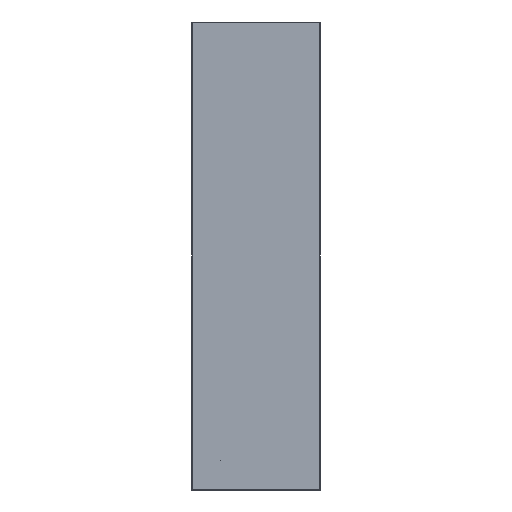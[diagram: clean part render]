
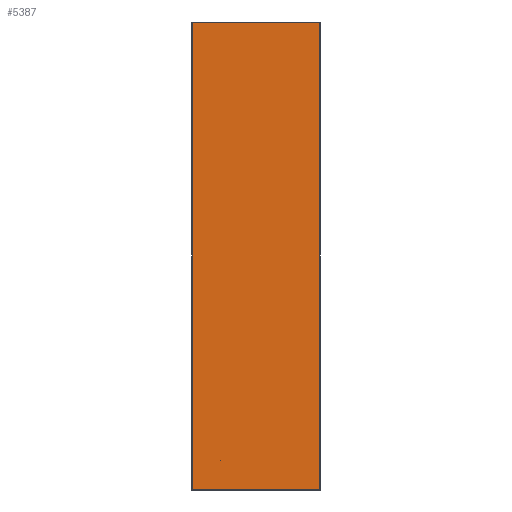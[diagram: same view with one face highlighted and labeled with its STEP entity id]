
A CAD part, front view. The second image highlights one B-rep face of the part: STEP entity #5387.
In plain terms, the highlighted planar face has unit normal (0, -1, 0).
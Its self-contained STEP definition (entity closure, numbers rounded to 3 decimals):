
#59 = EDGE_LOOP ( 'NONE', ( #2926, #4702 ) ) ;
#180 = VERTEX_POINT ( 'NONE', #3302 ) ;
#186 = ORIENTED_EDGE ( 'NONE', *, *, #2990, .T. ) ;
#253 = LINE ( 'NONE', #4280, #470 ) ;
#267 = VERTEX_POINT ( 'NONE', #404 ) ;
#295 = CARTESIAN_POINT ( 'NONE',  ( -217.9, -15., 797. ) ) ;
#373 = DIRECTION ( 'NONE',  ( 0., 0., 1. ) ) ;
#404 = CARTESIAN_POINT ( 'NONE',  ( 217.9, -15., -797. ) ) ;
#470 = VECTOR ( 'NONE', #4761, 1000. ) ;
#543 = CIRCLE ( 'NONE', #5489, 0.5 ) ;
#573 = CARTESIAN_POINT ( 'NONE',  ( -217.9, -15., 797. ) ) ;
#639 = FACE_BOUND ( 'NONE', #59, .T. ) ;
#781 = ORIENTED_EDGE ( 'NONE', *, *, #5078, .T. ) ;
#1040 = DIRECTION ( 'NONE',  ( -1., 0., 0. ) ) ;
#1041 = VECTOR ( 'NONE', #1040, 1000. ) ;
#1593 = VERTEX_POINT ( 'NONE', #3430 ) ;
#1643 = LINE ( 'NONE', #5069, #1787 ) ;
#1787 = VECTOR ( 'NONE', #5198, 1000. ) ;
#1888 = EDGE_CURVE ( 'NONE', #4983, #267, #1643, .T. ) ;
#2156 = EDGE_CURVE ( 'NONE', #3812, #4983, #253, .T. ) ;
#2174 = FACE_OUTER_BOUND ( 'NONE', #3600, .T. ) ;
#2303 = EDGE_CURVE ( 'NONE', #2577, #180, #543, .T. ) ;
#2574 = PLANE ( 'NONE',  #3071 ) ;
#2577 = VERTEX_POINT ( 'NONE', #3373 ) ;
#2676 = AXIS2_PLACEMENT_3D ( 'NONE', #5730, #3128, #373 ) ;
#2819 = CARTESIAN_POINT ( 'NONE',  ( -217.9, -15., -797. ) ) ;
#2926 = ORIENTED_EDGE ( 'NONE', *, *, #2303, .T. ) ;
#2990 = EDGE_CURVE ( 'NONE', #267, #1593, #3191, .T. ) ;
#3020 = DIRECTION ( 'NONE',  ( 0., 0., -1. ) ) ;
#3071 = AXIS2_PLACEMENT_3D ( 'NONE', #4732, #5627, #3020 ) ;
#3122 = CARTESIAN_POINT ( 'NONE',  ( -120.4, -15., -700. ) ) ;
#3128 = DIRECTION ( 'NONE',  ( 0., 1., 0. ) ) ;
#3187 = LINE ( 'NONE', #573, #1041 ) ;
#3191 = LINE ( 'NONE', #4390, #3329 ) ;
#3302 = CARTESIAN_POINT ( 'NONE',  ( -120.4, -15., -700.5 ) ) ;
#3329 = VECTOR ( 'NONE', #4351, 1000. ) ;
#3337 = ORIENTED_EDGE ( 'NONE', *, *, #2156, .T. ) ;
#3355 = EDGE_CURVE ( 'NONE', #180, #2577, #4229, .T. ) ;
#3373 = CARTESIAN_POINT ( 'NONE',  ( -120.4, -15., -699.5 ) ) ;
#3430 = CARTESIAN_POINT ( 'NONE',  ( 217.9, -15., 797. ) ) ;
#3600 = EDGE_LOOP ( 'NONE', ( #3337, #3678, #186, #781 ) ) ;
#3678 = ORIENTED_EDGE ( 'NONE', *, *, #1888, .T. ) ;
#3812 = VERTEX_POINT ( 'NONE', #295 ) ;
#4229 = CIRCLE ( 'NONE', #2676, 0.5 ) ;
#4280 = CARTESIAN_POINT ( 'NONE',  ( -217.9, -15., -798. ) ) ;
#4351 = DIRECTION ( 'NONE',  ( 0., 0., 1. ) ) ;
#4390 = CARTESIAN_POINT ( 'NONE',  ( 217.9, -15., -798. ) ) ;
#4702 = ORIENTED_EDGE ( 'NONE', *, *, #3355, .T. ) ;
#4732 = CARTESIAN_POINT ( 'NONE',  ( -217.9, -15., -798. ) ) ;
#4741 = DIRECTION ( 'NONE',  ( 0., 1., 0. ) ) ;
#4761 = DIRECTION ( 'NONE',  ( 0., 0., -1. ) ) ;
#4983 = VERTEX_POINT ( 'NONE', #2819 ) ;
#5069 = CARTESIAN_POINT ( 'NONE',  ( -217.9, -15., -797. ) ) ;
#5078 = EDGE_CURVE ( 'NONE', #1593, #3812, #3187, .T. ) ;
#5198 = DIRECTION ( 'NONE',  ( 1., 0., 0. ) ) ;
#5277 = DIRECTION ( 'NONE',  ( 0., 0., 1. ) ) ;
#5387 = ADVANCED_FACE ( 'NONE', ( #639, #2174 ), #2574, .T. ) ;
#5489 = AXIS2_PLACEMENT_3D ( 'NONE', #3122, #4741, #5277 ) ;
#5627 = DIRECTION ( 'NONE',  ( 0., -1., 0. ) ) ;
#5730 = CARTESIAN_POINT ( 'NONE',  ( -120.4, -15., -700. ) ) ;
